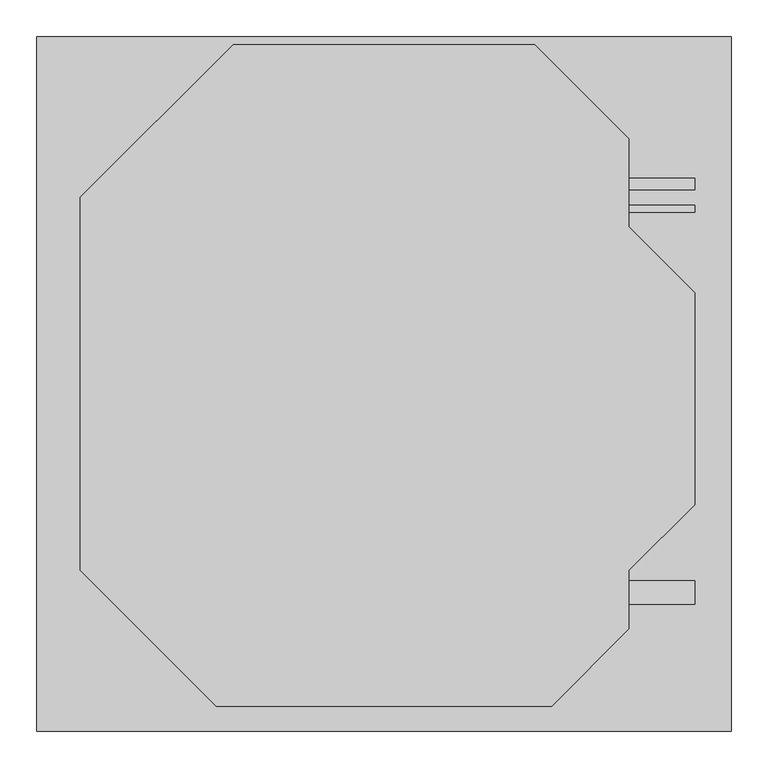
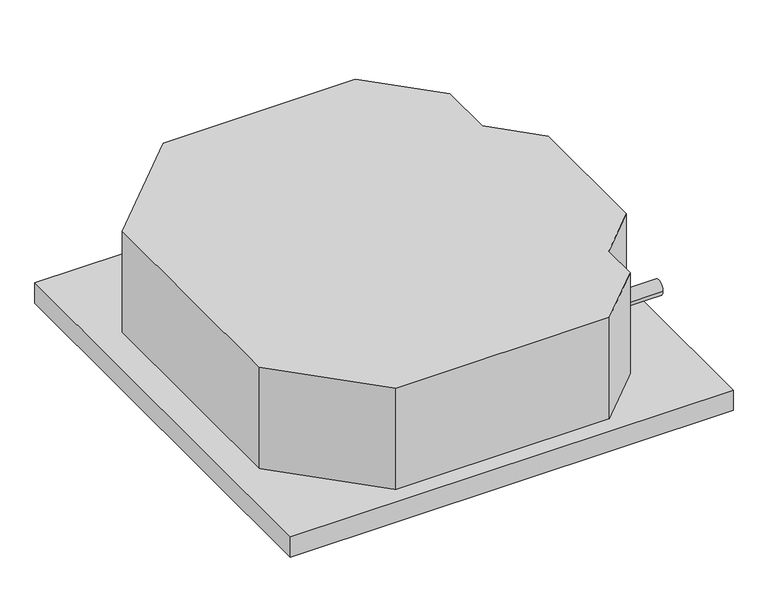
"""IFC4 building model written with IfcOpenShell, lengths in millimetres: proxy geometry, Midea_VRF_Indoor_4-way Cassette_MI-56(71,80)Q4_DHN1-D (2nd DC) : MI2-71Q4DHN1."""

import ifcopenshell
import ifcopenshell.guid

model = None  # the IFC model being written
_history = None  # IfcOwnerHistory: only IFC2X3 demands one
_inside = {}  # id of a spatial element -> (the spatial element, [elements in it])
_under = {}  # id of a project, library or spatial element -> (it, [spatial elements below it])
_declared = {}  # id of a project -> (the project, [libraries it declares])
_typed = {}  # id of a type object -> (the type object, [elements of that type])
_made_of = {}  # id of a material, layer set ... -> (it, [elements and type objects made of it])


def new_model(schema):
    """Start an empty IFC model of exactly this schema.

    Asked for "IFC4X3", IfcOpenShell would pick the latest addendum, in which some entities
    have other attributes; the version numbers below select the first issue.
    IFC2X3 requires an IfcOwnerHistory on every rooted entity: one is made here for all.
    """
    global model, _history
    if schema == "IFC4X3":
        model = ifcopenshell.file(schema_version=(4, 3, 0, 0))
    else:
        model = ifcopenshell.file(schema=schema)
    _inside.clear()
    _under.clear()
    _declared.clear()
    _typed.clear()
    _made_of.clear()
    _history = None
    if model.schema == "IFC2X3":
        org = make("IfcOrganization", Name="unknown")
        user = make(
            "IfcPersonAndOrganization",
            ThePerson=make("IfcPerson", FamilyName="unknown"),
            TheOrganization=org,
        )
        app = make(
            "IfcApplication",
            ApplicationDeveloper=org,
            Version="unknown",
            ApplicationFullName="unknown",
            ApplicationIdentifier="unknown",
        )
        _history = make(
            "IfcOwnerHistory",
            OwningUser=user,
            OwningApplication=app,
            ChangeAction="ADDED",
            CreationDate=0,
        )
    return model


def make(cls, **values):
    """One entity of the class cls with the attributes given. An attribute that is None is left unset."""
    return model.create_entity(
        cls, **{name: value for name, value in values.items() if value is not None}
    )


def rooted(cls, **values):
    """An entity with a GlobalId (a new one), such as an element, a storey or a relation."""
    return make(cls, GlobalId=ifcopenshell.guid.new(), OwnerHistory=_history, **values)


def si_unit(unit_type, name, prefix=None):
    """IfcSIUnit, for example si_unit("LENGTHUNIT", "METRE", prefix="MILLI")."""
    return make("IfcSIUnit", UnitType=unit_type, Prefix=prefix, Name=name)


def assignment(units):
    """IfcUnitAssignment: the units of a project."""
    return None if units is None else make("IfcUnitAssignment", Units=units)


def point(xyz):
    """IfcCartesianPoint."""
    return None if xyz is None else make("IfcCartesianPoint", Coordinates=xyz)


def direction(xyz):
    """IfcDirection."""
    return None if xyz is None else make("IfcDirection", DirectionRatios=xyz)


def frame(location, z_axis=None, x_axis=None):
    """IfcAxis2Placement3D, a coordinate frame: its origin and axes. An axis left out is left unset."""
    return make(
        "IfcAxis2Placement3D",
        Location=point(location),
        Axis=direction(z_axis),
        RefDirection=direction(x_axis),
    )


def frame_2d(location, x_axis=None):
    """IfcAxis2Placement2D, a coordinate frame in the plane: its origin and x axis."""
    return make(
        "IfcAxis2Placement2D", Location=point(location), RefDirection=direction(x_axis)
    )


def origin():
    """The frame at (0, 0, 0) with its axes left unset."""
    return frame((0.0, 0.0, 0.0))


def origin_with_axes():
    """The frame at (0, 0, 0) with the z axis (0, 0, 1) and the x axis (1, 0, 0) written out."""
    return frame((0.0, 0.0, 0.0), z_axis=(0.0, 0.0, 1.0), x_axis=(1.0, 0.0, 0.0))


def place(relative_to, where):
    """IfcLocalPlacement: puts the frame where relative to a parent placement (None: the world)."""
    return make(
        "IfcLocalPlacement", PlacementRelTo=relative_to, RelativePlacement=where
    )


def context(
    kind, dimensions, precision=None, world=None, true_north=None, identifier=None
):
    """IfcGeometricRepresentationContext, for example the 3D "Model" context."""
    return make(
        "IfcGeometricRepresentationContext",
        ContextIdentifier=identifier,
        ContextType=kind,
        CoordinateSpaceDimension=dimensions,
        Precision=precision,
        WorldCoordinateSystem=world,
        TrueNorth=true_north,
    )


def project(units=None, contexts=None):
    """IfcProject with its units and contexts."""
    return rooted(
        "IfcProject",
        Name="project",
        RepresentationContexts=contexts,
        UnitsInContext=assignment(units),
    )


def spatial(cls, under=None, at=None, **own):
    """A site, building, storey or space (cls), placed at a placement, below another one or the project."""
    s = rooted(cls, ObjectPlacement=at, **own)
    if under is not None:
        _under.setdefault(under.id(), (under, []))[1].append(s)
    return s


def polyline(points):
    """IfcPolyline through the points."""
    return make("IfcPolyline", Points=[point(p) for p in points])


def circle_curve(where, radius):
    """IfcCircle in the frame where."""
    return make("IfcCircle", Position=where, Radius=radius)


def trimmed(basis, trim1, trim2, sense, master):
    """IfcTrimmedCurve: the piece of a basis curve between two trims."""
    return make(
        "IfcTrimmedCurve",
        BasisCurve=basis,
        Trim1=trim1,
        Trim2=trim2,
        SenseAgreement=sense,
        MasterRepresentation=master,
    )


def segment(curve, same_sense, transition):
    """IfcCompositeCurveSegment."""
    return make(
        "IfcCompositeCurveSegment",
        Transition=transition,
        SameSense=same_sense,
        ParentCurve=curve,
    )


def composite_curve(segments, self_intersect=None):
    """IfcCompositeCurve: segments joined end to end."""
    return make("IfcCompositeCurve", Segments=segments, SelfIntersect=self_intersect)


def outline(outer, holes=None, kind="AREA"):
    """IfcArbitraryClosedProfileDef: a profile drawn as a closed curve; with holes, ...WithVoids."""
    if holes is None:
        return make("IfcArbitraryClosedProfileDef", ProfileType=kind, OuterCurve=outer)
    return make(
        "IfcArbitraryProfileDefWithVoids",
        ProfileType=kind,
        OuterCurve=outer,
        InnerCurves=holes,
    )


def extrude(swept, where, along, depth):
    """IfcExtrudedAreaSolid: the profile swept, set in the frame where, extruded along a direction by depth."""
    return make(
        "IfcExtrudedAreaSolid",
        SweptArea=swept,
        Position=where,
        ExtrudedDirection=direction(along),
        Depth=depth,
    )


def shape(context_of_items, identifier, shape_type, items):
    """IfcShapeRepresentation: the items that make up one representation, for example the "Body"."""
    return make(
        "IfcShapeRepresentation",
        ContextOfItems=context_of_items,
        RepresentationIdentifier=identifier,
        RepresentationType=shape_type,
        Items=items,
    )


def source(mapping_origin, context_of_items, identifier, shape_type, items):
    """IfcRepresentationMap: a shape defined once, which mapped items show again and again."""
    return make(
        "IfcRepresentationMap",
        MappingOrigin=mapping_origin,
        MappedRepresentation=shape(context_of_items, identifier, shape_type, items),
    )


def transform(
    local_origin,
    x_axis=None,
    y_axis=None,
    z_axis=None,
    scale=None,
    scale2=None,
    scale3=None,
    uniform=True,
):
    """IfcCartesianTransformationOperator3D, or its non-uniform kind. x_axis, y_axis, z_axis: its Axis1, 2, 3."""
    if uniform:
        return make(
            "IfcCartesianTransformationOperator3D",
            Axis1=direction(x_axis),
            Axis2=direction(y_axis),
            LocalOrigin=point(local_origin),
            Scale=scale,
            Axis3=direction(z_axis),
        )
    return make(
        "IfcCartesianTransformationOperator3DnonUniform",
        Axis1=direction(x_axis),
        Axis2=direction(y_axis),
        LocalOrigin=point(local_origin),
        Scale=scale,
        Axis3=direction(z_axis),
        Scale2=scale2,
        Scale3=scale3,
    )


def mapped(mapping_source, mapping_target):
    """IfcMappedItem: shows the shape of a source again, moved by a transform."""
    return make(
        "IfcMappedItem", MappingSource=mapping_source, MappingTarget=mapping_target
    )


def made_of(thing, what):
    """Note that an element or type object is made of a material, layer set ...; save() writes the relation."""
    if what is not None:
        _made_of.setdefault(what.id(), (what, []))[1].append(thing)
    return thing


def element(
    cls,
    number,
    at=None,
    inside=None,
    cuts=None,
    type_object=None,
    material=None,
    context=None,
    identifier="Body",
    shape_type=None,
    held_by="IfcProductDefinitionShape",
    body=None,
    shapes=None,
    **own,
):
    """One element of the class cls, such as IfcWall. Its Tag is "e" and its number.

    at: its placement. inside: the storey or other place that contains it. cuts: it is an
    opening in that element (IfcRelVoidsElement). A single representation is given by context,
    identifier, shape_type and body (its items); several are given by shapes. held_by: the class
    of the entity that holds the representations. save() writes the other relations.
    """
    e = rooted(cls, Tag="e%d" % number, ObjectPlacement=at, **own)
    if body is not None:
        shapes = [shape(context, identifier, shape_type, body)]
    if shapes is not None:
        e.Representation = make(held_by, Representations=shapes)
    if inside is not None:
        _inside.setdefault(inside.id(), (inside, []))[1].append(e)
    if cuts is not None:
        rooted(
            "IfcRelVoidsElement", RelatingBuildingElement=cuts, RelatedOpeningElement=e
        )
    if type_object is not None:
        _typed.setdefault(type_object.id(), (type_object, []))[1].append(e)
    return made_of(e, material)


def aggregate(whole, parts):
    """IfcRelAggregates: a whole, such as a stair, and the parts it consists of."""
    return rooted("IfcRelAggregates", RelatingObject=whole, RelatedObjects=parts)


def save(model, path):
    """Write the relations noted so far, then the file.

    IfcRelAggregates (storeys below a building ...), IfcRelContainedInSpatialStructure (elements
    in a storey), IfcRelDefinesByType, IfcRelAssociatesMaterial and IfcRelDeclares: one each for
    every whole, place, type object, material and project.
    """
    for whole, parts in _under.values():
        aggregate(whole, parts)
    for where, things in _inside.values():
        rooted(
            "IfcRelContainedInSpatialStructure",
            RelatedElements=things,
            RelatingStructure=where,
        )
    for kind, things in _typed.values():
        rooted("IfcRelDefinesByType", RelatedObjects=things, RelatingType=kind)
    for what, things in _made_of.values():
        rooted("IfcRelAssociatesMaterial", RelatedObjects=things, RelatingMaterial=what)
    for by, libraries in _declared.values():
        rooted("IfcRelDeclares", RelatingContext=by, RelatedDefinitions=libraries)
    model.write(path)


def mechanical_equipment_77aa587a(model_context):
    return source(origin(), model_context, "Body", "SweptSolid", [
        extrude(outline(polyline([(475.0, 475.0), (475.0, -475.0), (-475.0, -475.0), (-475.0, 475.0), (0.0, 475.0), (475.0, 475.0)])), origin_with_axes(), (0.0, 0.0, 1.0), 46.0),
        extrude(outline(polyline([(-206.4236999, 463.5763001), (206.4236999, 463.5763001), (335.0, 335.0), (335.0, 215.0), (425.0, 125.0), (425.0, -165.0), (335.0, -255.0), (335.0, -335.0), (229.5763001, -440.4236999), (-229.5763001, -440.4236999), (-415.0, -255.0), (-415.0, 255.0), (-206.4236999, 463.5763001)])), frame((0.0, 0.0, 46.0), z_axis=(0.0, 0.0, 1.0), x_axis=(1.0, 0.0, 0.0)), (0.0, 0.0, 1.0), 230.0),
        extrude(outline(composite_curve([segment(trimmed(circle_curve(frame_2d((239.4083718, 146.8446487)), 4.765), [point((234.6433718, 146.8446487))], [point((244.1733718, 146.8446487))], False, "CARTESIAN"), True, "CONTINUOUS"), segment(trimmed(circle_curve(frame_2d((239.4083718, 146.8446487)), 4.765), [point((244.1733718, 146.8446487))], [point((234.6433718, 146.8446487))], False, "CARTESIAN"), True, "CONTINUOUS")], self_intersect=False)), frame((335.0, 0.0, 0.0), z_axis=(1.0, 0.0, 0.0), x_axis=(0.0, 1.0, 0.0)), (0.0, 0.0, 1.0), 90.0),
        extrude(outline(composite_curve([segment(trimmed(circle_curve(frame_2d((-285.0, 182.3085101)), 16.0), [point((-269.0, 182.3085101))], [point((-301.0, 182.3085101))], False, "CARTESIAN"), True, "CONTINUOUS"), segment(trimmed(circle_curve(frame_2d((-285.0, 182.3085101)), 16.0), [point((-301.0, 182.3085101))], [point((-269.0, 182.3085101))], False, "CARTESIAN"), True, "CONTINUOUS")], self_intersect=False)), frame((335.0, 0.0, 0.0), z_axis=(1.0, 0.0, 0.0), x_axis=(0.0, 1.0, 0.0)), (0.0, 0.0, 1.0), 90.0),
        extrude(outline(composite_curve([segment(trimmed(circle_curve(frame_2d((273.2108137, 182.3085101)), 7.95), [point((281.1608137, 182.3085101))], [point((265.2608137, 182.3085101))], False, "CARTESIAN"), True, "CONTINUOUS"), segment(trimmed(circle_curve(frame_2d((273.2108137, 182.3085101)), 7.95), [point((265.2608137, 182.3085101))], [point((281.1608137, 182.3085101))], False, "CARTESIAN"), True, "CONTINUOUS")], self_intersect=False)), frame((335.0, 0.0, 0.0), z_axis=(1.0, 0.0, 0.0), x_axis=(0.0, 1.0, 0.0)), (0.0, 0.0, 1.0), 90.0),
    ])


if __name__ == "__main__":
    model = new_model("IFC4")
    model_context = context("Model", 3, world=origin())
    ifc_project = project(units=[si_unit("LENGTHUNIT", "METRE", prefix="MILLI")], contexts=[model_context])
    site = spatial("IfcSite", under=ifc_project)
    building = spatial("IfcBuilding", under=site)
    placement = place(None, origin())
    mechanical_equipment_shape = mechanical_equipment_77aa587a(model_context)
    element("IfcBuildingElementProxy", 1, Name="Midea_VRF_Indoor_4-way Cassette_MI-56(71,80)Q4_DHN1-D (2nd DC) : MI2-71Q4DHN1", ObjectType="Midea_VRF_Indoor_4-way Cassette_MI-56(71,80)Q4_DHN1-D (2nd DC) : MI2-71Q4DHN1", at=placement, inside=building, context=model_context, shape_type="MappedRepresentation", body=[
        mapped(mechanical_equipment_shape, transform((0.0, 0.0, 0.0), x_axis=(1.0, 0.0, 0.0), y_axis=(0.0, 1.0, 0.0), z_axis=(0.0, 0.0, 1.0))),
    ])
    save(model, "model.ifc")
